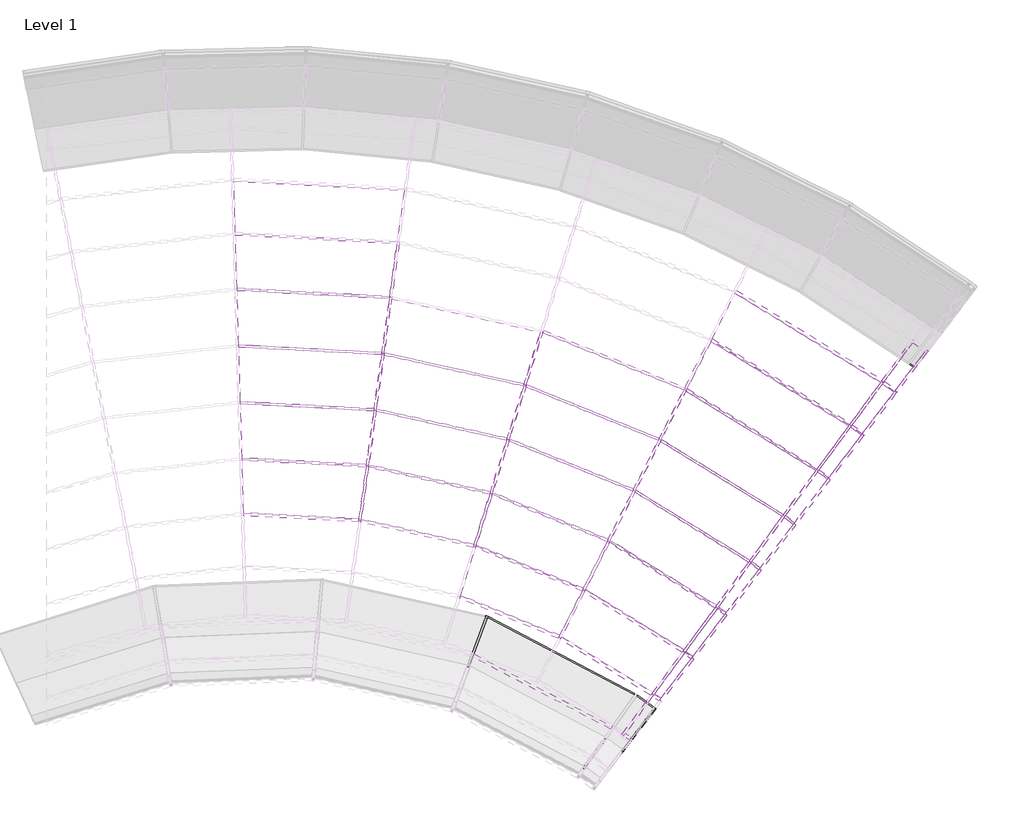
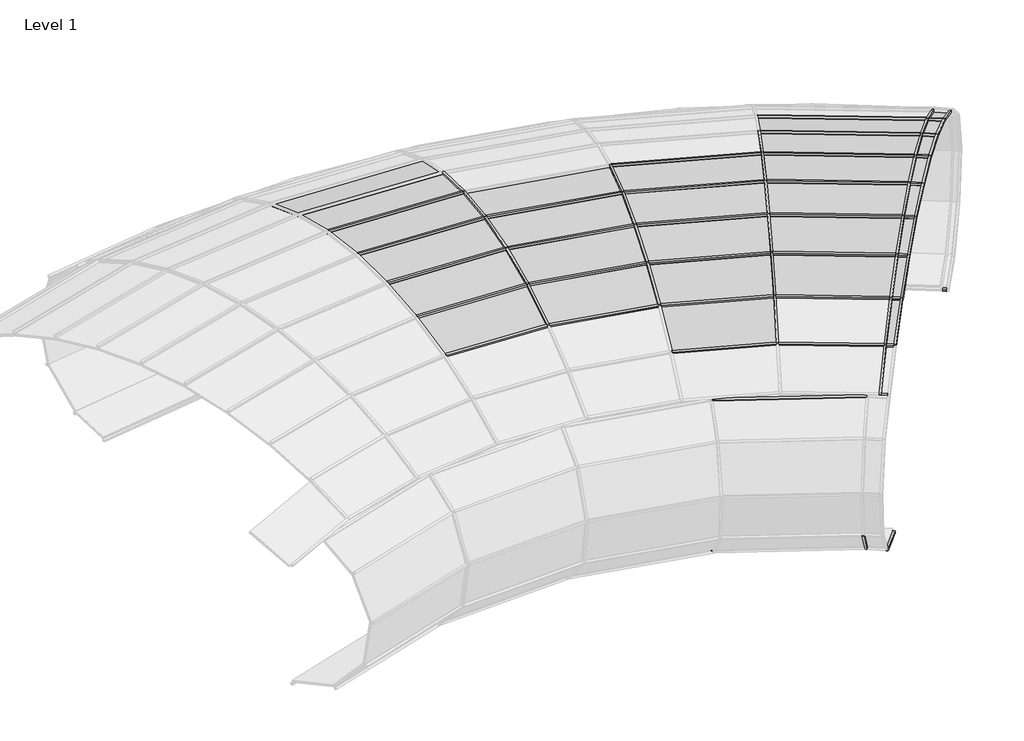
# One storey, part 11 of 23: 71 members, 29 plates.
"""IFC4 building model written with IfcOpenShell, lengths in millimetres."""

from ifc_helpers import new_model, si_unit, origin, place, context, project, spatial, transform, mapped, element, save
from components import member_bff08ed3, member_9d0ecc57, member_3a0dd7d7, member_3a6df916, member_eca8a4a2, member_088ab3f2, member_d0141056, member_eb56ffe8, member_dc232313, member_20936006, member_c628317b, member_691cbd0a, member_6de91377, member_1afcac62, member_1c681369, member_9272082a, member_20199af6, member_5b501c0e, member_86ced42f, member_955aa5bb, member_c28afb9a, member_d6b8231b, member_98341453, member_8c9da58c, member_173a6c74, member_3142c306, member_0cd36c09, member_d0a40a1c, member_e4cc2466, member_9a5219bf, member_20c667eb, member_7149052c, system_panel_glazed_11031df9, system_panel_glazed_55877d03, system_panel_glazed_6b8754b1, system_panel_glazed_fa29fb8c, system_panel_glazed_51026fb6, system_panel_glazed_eab3d7f1, system_panel_glazed_e1e187d2, system_panel_glazed_d7dbf363, system_panel_glazed_71638be0, system_panel_glazed_d8ad03ad, system_panel_glazed_05378adf, system_panel_glazed_bcda8126, system_panel_glazed_d39a2736, system_panel_glazed_5c131dfc, system_panel_glazed_db05a576

model = new_model("IFC4")

# Units and contexts
model_context = context("Model", 3, world=origin())
ifc_project = project(units=[si_unit("LENGTHUNIT", "METRE", prefix="MILLI")], contexts=[model_context])

# Site, building, storey
site = spatial("IfcSite", under=ifc_project)
building = spatial("IfcBuilding", under=site)
storey = spatial("IfcBuildingStorey", under=building, Name="Level 1", Elevation=0.0)

# Members
placement = place(None, origin())
member_shape = member_bff08ed3(model_context)
element("IfcMember", 1, ObjectType="Rectangular Mullion : 1\" Square", at=placement, inside=storey, context=model_context, shape_type="MappedRepresentation", body=[
    mapped(member_shape, transform((2301.5056599, -6690.896124, 0.0), x_axis=(0.445109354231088, 0.8497435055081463, -0.28251307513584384), y_axis=(-0.1310893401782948, -0.25025831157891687, -0.9592634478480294), z_axis=(-0.8858291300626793, 0.46401158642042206, 0.0))),
])
member_2_shape = member_9d0ecc57(model_context)
element("IfcMember", 2, ObjectType="Rectangular Mullion : 1\" Square", at=placement, inside=storey, context=model_context, shape_type="MappedRepresentation", body=[
    mapped(member_2_shape, transform((3896.1567783, -7528.3327614, 0.0), x_axis=(0.5669356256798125, 0.7745913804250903, -0.28034298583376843), y_axis=(-0.16557604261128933, -0.2262228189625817, -0.9598998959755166), z_axis=(-0.8069501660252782, 0.5906195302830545, 0.0))),
])
member_3_shape = member_3a0dd7d7(model_context)
element("IfcMember", 3, ObjectType="Rectangular Mullion : 1\" Square", at=placement, inside=storey, context=model_context, shape_type="MappedRepresentation", body=[
    mapped(member_3_shape, transform((3626.4458114, -7867.7450391, 2085.6089632), x_axis=(0.3715065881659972, 0.7092309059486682, 0.5991447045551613), y_axis=(-0.27801008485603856, -0.5307398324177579, 0.8006407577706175), z_axis=(0.8858291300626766, -0.4640115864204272, 0.0))),
])
member_4_shape = member_3a6df916(model_context)
element("IfcMember", 4, ObjectType="Rectangular Mullion : 1\" Square", at=placement, inside=storey, context=model_context, shape_type="MappedRepresentation", body=[
    mapped(member_4_shape, transform((2325.1422191, -5370.4577997, 2763.3769688), x_axis=(0.21296612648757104, 0.9562195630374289, 0.20072263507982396), y_axis=(-0.04363518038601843, -0.1959222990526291, 0.9796481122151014), z_axis=(0.9760847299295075, -0.21739043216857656, 0.0))),
])
element("IfcMember", 5, ObjectType="Rectangular Mullion : 1\" Square", at=placement, inside=storey, context=model_context, shape_type="MappedRepresentation", body=[
    mapped(member_4_shape, transform((3580.451597, -5876.7686495, 2763.3769688), x_axis=(0.36784942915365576, 0.907963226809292, 0.20072263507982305), y_axis=(-0.07536962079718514, -0.18603493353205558, 0.9796481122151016), z_axis=(0.9268258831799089, -0.37549138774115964, 0.0))),
])
element("IfcMember", 6, ObjectType="Rectangular Mullion : 1\" Square", at=placement, inside=storey, context=model_context, shape_type="MappedRepresentation", body=[
    mapped(member_4_shape, transform((4734.9935766, -6583.2989946, 2763.3769688), x_axis=(0.5126454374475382, 0.8348084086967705, 0.20072263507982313), y_axis=(-0.10503724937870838, -0.17104605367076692, 0.9796481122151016), z_axis=(0.8521512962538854, -0.5232954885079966, 0.0))),
])
element("IfcMember", 7, ObjectType="Rectangular Mullion : 1\" Square", at=placement, inside=storey, context=model_context, shape_type="MappedRepresentation", body=[
    mapped(member_4_shape, transform((1003.4889711, -5078.2506764, 2763.3769688), x_axis=(0.052242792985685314, 0.9782541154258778, 0.200722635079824), y_axis=(-0.01070416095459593, -0.20043701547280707, 0.9796481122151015), z_axis=(0.9985770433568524, -0.05332812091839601, 0.0))),
])
member_5_shape = member_eca8a4a2(model_context)
element("IfcMember", 8, ObjectType="Rectangular Mullion : 1\" Square", at=placement, inside=storey, context=model_context, shape_type="MappedRepresentation", body=[
    mapped(member_5_shape, transform((4836.4355375, -6657.7087757, 2763.3769688), x_axis=(0.5866174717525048, 0.7844743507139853, 0.2011962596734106), y_axis=(-0.12048912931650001, -0.16112822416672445, 0.9795509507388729), z_axis=(0.800850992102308, -0.5988636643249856, 0.0))),
])
member_6_shape = member_088ab3f2(model_context)
element("IfcMember", 9, ObjectType="Rectangular Mullion : 1\" Square", at=placement, inside=storey, context=model_context, shape_type="MappedRepresentation", body=[
    mapped(member_6_shape, transform((1085.4446195, -4480.4538718, 2850.17796), x_axis=(0.05314395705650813, 0.995128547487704, 0.08303549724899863), y_axis=(-0.004428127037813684, -0.0829173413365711, 0.996546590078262), z_axis=(0.9985770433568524, -0.05332812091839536, 0.0))),
])
element("IfcMember", 10, ObjectType="Rectangular Mullion : 1\" Square", at=placement, inside=storey, context=model_context, shape_type="MappedRepresentation", body=[
    mapped(member_6_shape, transform((2504.6275681, -4794.3824943, 2850.17796), x_axis=(0.2166396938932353, 0.9727139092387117, 0.08303549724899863), y_axis=(-0.018051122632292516, -0.08104968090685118, 0.996546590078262), z_axis=(0.9760847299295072, -0.21739043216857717, 0.0))),
])
element("IfcMember", 11, ObjectType="Rectangular Mullion : 1\" Square", at=placement, inside=storey, context=model_context, shape_type="MappedRepresentation", body=[
    mapped(member_6_shape, transform((3852.5447372, -5338.2121799, 2850.17796), x_axis=(0.3741946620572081, 0.9236251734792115, 0.08303549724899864), y_axis=(-0.031179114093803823, -0.07695944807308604, 0.9965465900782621), z_axis=(0.9268258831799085, -0.3754913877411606, 0.0))),
])
element("IfcMember", 12, ObjectType="Rectangular Mullion : 1\" Square", at=placement, inside=storey, context=model_context, shape_type="MappedRepresentation", body=[
    mapped(member_6_shape, transform((5092.2330757, -6097.0298425, 2850.17796), x_axis=(0.5214883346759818, 0.8492084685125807, 0.08303549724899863), y_axis=(-0.043452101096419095, -0.07075880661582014, 0.996546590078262), z_axis=(0.8521512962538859, -0.5232954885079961, 0.0))),
])
member_7_shape = member_d0141056(model_context)
element("IfcMember", 13, ObjectType="Rectangular Mullion : 1\" Square", at=placement, inside=storey, context=model_context, shape_type="MappedRepresentation", body=[
    mapped(member_7_shape, transform((923.5200016, -5661.5563471, 2605.3528615), x_axis=(0.050602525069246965, 0.9475398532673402, 0.31560673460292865), y_axis=(-0.016830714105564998, -0.3151576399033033, 0.9488900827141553), z_axis=(0.9985770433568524, -0.0533281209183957, 0.0))),
])
element("IfcMember", 14, ObjectType="Rectangular Mullion : 1\" Square", at=placement, inside=storey, context=model_context, shape_type="MappedRepresentation", body=[
    mapped(member_7_shape, transform((2150.007757, -5932.5685198, 2605.3528615), x_axis=(0.20627962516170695, 0.9261971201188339, 0.3156067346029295), y_axis=(-0.06860988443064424, -0.30805891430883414, 0.9488900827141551), z_axis=(0.9760847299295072, -0.21739043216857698, 0.0))),
])
element("IfcMember", 15, ObjectType="Rectangular Mullion : 1\" Square", at=placement, inside=storey, context=model_context, shape_type="MappedRepresentation", body=[
    mapped(member_7_shape, transform((3314.9542401, -6402.2700244, 2605.3528615), x_axis=(0.35630005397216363, 0.8794558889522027, 0.3156067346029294), y_axis=(-0.11850761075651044, -0.29251249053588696, 0.9488900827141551), z_axis=(0.926825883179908, -0.3754913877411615, 0.0))),
])
element("IfcMember", 16, ObjectType="Rectangular Mullion : 1\" Square", at=placement, inside=storey, context=model_context, shape_type="MappedRepresentation", body=[
    mapped(member_7_shape, transform((4386.4138853, -7057.7805436, 2605.3528615), x_axis=(0.496549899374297, 0.8085979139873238, 0.3156067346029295), y_axis=(-0.1651555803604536, -0.2689446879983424, 0.9488900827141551), z_axis=(0.8521512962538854, -0.5232954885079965, 0.0))),
])
member_8_shape = member_eb56ffe8(model_context)
element("IfcMember", 17, ObjectType="Rectangular Mullion : 1\" Square", at=placement, inside=storey, context=model_context, shape_type="MappedRepresentation", body=[
    mapped(member_8_shape, transform((4137.2242306, -7576.4158177, 2378.3537392), x_axis=(0.5415001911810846, 0.7241397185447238, 0.42708220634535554), y_axis=(-0.2557640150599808, -0.3420292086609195, 0.9042128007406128), z_axis=(0.8008509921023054, -0.5988636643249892, 0.0))),
])
member_9_shape = member_dc232313(model_context)
element("IfcMember", 18, ObjectType="Rectangular Mullion : 1\" Square", at=placement, inside=storey, context=model_context, shape_type="MappedRepresentation", body=[
    mapped(member_9_shape, transform((4051.4530067, -7513.724365, 2378.3537392), x_axis=(0.47341858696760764, 0.7709301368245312, 0.4260769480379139), y_axis=(-0.22296414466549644, -0.3630820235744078, 0.9046869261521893), z_axis=(0.8521512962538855, -0.5232954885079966, 0.0))),
])
element("IfcMember", 19, ObjectType="Rectangular Mullion : 1\" Square", at=placement, inside=storey, context=model_context, shape_type="MappedRepresentation", body=[
    mapped(member_9_shape, transform((3059.8297158, -6907.2403557, 2378.3537392), x_axis=(0.33970214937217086, 0.8384872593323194, 0.42607694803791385), y_axis=(-0.15998822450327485, -0.39489914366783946, 0.9046869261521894), z_axis=(0.9268258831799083, -0.37549138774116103, 0.0))),
])
member_10_shape = member_20936006(model_context)
element("IfcMember", 20, ObjectType="Rectangular Mullion : 1\" Square", at=placement, inside=storey, context=model_context, shape_type="MappedRepresentation", body=[
    mapped(member_10_shape, transform((5201.8650497, -6177.5639856, 2850.17796), x_axis=(0.5967902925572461, 0.7980783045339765, 0.083140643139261), y_axis=(-0.04978991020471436, -0.06658326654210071, 0.9965378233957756), z_axis=(0.800850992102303, -0.5988636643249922, 0.0))),
])
member_11_shape = member_c628317b(model_context)
element("IfcMember", 21, ObjectType="Rectangular Mullion : 1\" Square", at=placement, inside=storey, context=model_context, shape_type="MappedRepresentation", body=[
    mapped(member_11_shape, transform((1168.2210198, -3876.6703796, 2864.5209769), x_axis=(0.05329391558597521, 0.9979365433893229, -0.03581080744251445), y_axis=(0.0019097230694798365, 0.03575985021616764, 0.999358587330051), z_axis=(0.9985770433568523, -0.053328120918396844, 0.0))),
])
element("IfcMember", 22, ObjectType="Rectangular Mullion : 1\" Square", at=placement, inside=storey, context=model_context, shape_type="MappedRepresentation", body=[
    mapped(member_11_shape, transform((2685.9103885, -4212.5380333, 2864.5209769), x_axis=(0.21725099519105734, 0.975458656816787, -0.03581080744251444), y_axis=(0.007784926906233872, 0.03495438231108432, 0.999358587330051), z_axis=(0.9760847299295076, -0.21739043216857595, 0.0))),
])
element("IfcMember", 23, ObjectType="Rectangular Mullion : 1\" Square", at=placement, inside=storey, context=model_context, shape_type="MappedRepresentation", body=[
    mapped(member_11_shape, transform((4127.3627775, -4794.2622901, 2864.5209769), x_axis=(0.3752505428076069, 0.9262314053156, -0.035810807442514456), y_axis=(0.013446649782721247, 0.03319038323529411, 0.999358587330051), z_axis=(0.9268258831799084, -0.37549138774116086, 0.0))),
])
element("IfcMember", 24, ObjectType="Rectangular Mullion : 1\" Square", at=placement, inside=storey, context=model_context, shape_type="MappedRepresentation", body=[
    mapped(member_11_shape, transform((5453.0501805, -5605.8909062, 2864.5209769), x_axis=(0.5229598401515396, 0.8516047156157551, -0.03581080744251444), y_axis=(0.01873963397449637, 0.03051622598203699, 0.999358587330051), z_axis=(0.8521512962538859, -0.5232954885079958, 0.0))),
])
member_12_shape = member_691cbd0a(model_context)
element("IfcMember", 25, ObjectType="Rectangular Mullion : 1\" Square", at=placement, inside=storey, context=model_context, shape_type="MappedRepresentation", body=[
    mapped(member_12_shape, transform((5570.9541872, -5692.6107441, 2864.5209769), x_axis=(0.5984733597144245, 0.8003290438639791, -0.03609791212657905), y_axis=(0.021617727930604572, 0.028909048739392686, 0.9993482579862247), z_axis=(0.8008509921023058, -0.5988636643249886, 0.0))),
])
member_13_shape = member_6de91377(model_context)
element("IfcMember", 26, ObjectType="Rectangular Mullion : 1\" Square", at=placement, inside=storey, context=model_context, shape_type="MappedRepresentation", body=[
    mapped(member_13_shape, transform((1250.6405687, -3275.4898148, 2806.2019711), x_axis=(0.05269064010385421, 0.9866401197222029, -0.1541589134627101), y_axis=(0.008221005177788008, 0.1539395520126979, 0.9880460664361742), z_axis=(0.9985770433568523, -0.053328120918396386, 0.0))),
])
element("IfcMember", 27, ObjectType="Rectangular Mullion : 1\" Square", at=placement, inside=storey, context=model_context, shape_type="MappedRepresentation", body=[
    mapped(member_13_shape, transform((4400.9960697, -4252.6573834, 2806.2019711), x_axis=(0.3710027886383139, 0.9157466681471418, -0.15415891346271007), y_axis=(0.05788534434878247, 0.14287847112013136, 0.9880460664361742), z_axis=(0.9268258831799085, -0.3754913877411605, 0.0))),
])
element("IfcMember", 28, ObjectType="Rectangular Mullion : 1\" Square", at=placement, inside=storey, context=model_context, shape_type="MappedRepresentation", body=[
    mapped(member_13_shape, transform((5812.3117927, -5116.8692835, 2806.2019711), x_axis=(0.5170400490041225, 0.8419647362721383, -0.1541589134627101), y_axis=(0.08067066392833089, 0.13136671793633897, 0.9880460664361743), z_axis=(0.8521512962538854, -0.5232954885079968, 0.0))),
])
member_14_shape = member_1afcac62(model_context)
element("IfcMember", 29, ObjectType="Rectangular Mullion : 1\" Square", at=placement, inside=storey, context=model_context, shape_type="MappedRepresentation", body=[
    mapped(member_14_shape, transform((5938.4521712, -5209.7481494, 2806.2019711), x_axis=(0.5916426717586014, 0.7911944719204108, -0.15482330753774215), y_axis=(0.09271805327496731, 0.12399039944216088, 0.9879421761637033), z_axis=(0.8008509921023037, -0.5988636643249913, 0.0))),
])
member_15_shape = member_1c681369(model_context)
element("IfcMember", 30, ObjectType="Rectangular Mullion : 1\" Square", at=placement, inside=storey, context=model_context, shape_type="MappedRepresentation", body=[
    mapped(member_15_shape, transform((6164.9069432, -4636.9219506, 2676.0506073), x_axis=(0.5038079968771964, 0.8204172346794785, -0.27035728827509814), y_axis=(0.14147674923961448, 0.2303853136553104, 0.9627600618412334), z_axis=(0.852151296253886, -0.5232954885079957, 0.0))),
])
member_16_shape = member_9272082a(model_context)
element("IfcMember", 31, ObjectType="Rectangular Mullion : 1\" Square", at=placement, inside=storey, context=model_context, shape_type="MappedRepresentation", body=[
    mapped(member_16_shape, transform((6299.1308592, -4735.8455576, 2676.0506073), x_axis=(0.5763952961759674, 0.7708043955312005, -0.2713467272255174), y_axis=(0.16249969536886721, 0.21730829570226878, 0.962481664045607), z_axis=(0.8008509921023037, -0.5988636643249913, 0.0))),
])
member_17_shape = member_20199af6(model_context)
element("IfcMember", 32, ObjectType="Rectangular Mullion : 1\" Square", at=placement, inside=storey, context=model_context, shape_type="MappedRepresentation", body=[
    mapped(member_17_shape, transform((6505.8195017, -4172.87679, 2475.91846), x_axis=(0.48344113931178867, 0.7872511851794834, -0.3827796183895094), y_axis=(0.20030684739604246, 0.3261861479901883, 0.9238396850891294), z_axis=(0.8521512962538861, -0.5232954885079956, 0.0))),
])
member_18_shape = member_5b501c0e(model_context)
element("IfcMember", 33, ObjectType="Rectangular Mullion : 1\" Square", at=placement, inside=storey, context=model_context, shape_type="MappedRepresentation", body=[
    mapped(member_18_shape, transform((6647.8591221, -4277.6448567, 2475.91846), x_axis=(0.5529479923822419, 0.7394486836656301, -0.384010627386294), y_axis=(0.2299700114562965, 0.3075352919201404, 0.9233286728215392), z_axis=(0.8008509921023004, -0.5988636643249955, 0.0))),
])
member_19_shape = member_86ced42f(model_context)
element("IfcMember", 34, ObjectType="Rectangular Mullion : 1\" Square", at=placement, inside=storey, context=model_context, shape_type="MappedRepresentation", body=[
    mapped(member_19_shape, transform((4479.8643664, -7126.2144229, 2605.3528615), x_axis=(0.5680996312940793, 0.7597107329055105, 0.3163896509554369), y_axis=(-0.1894742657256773, -0.25338096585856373, 0.9486293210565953), z_axis=(0.8008509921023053, -0.5988636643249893, 0.0))),
])
member_20_shape = member_955aa5bb(model_context)
element("IfcMember", 35, ObjectType="Rectangular Mullion : 1\" Square", at=placement, inside=storey, context=model_context, shape_type="MappedRepresentation", body=[
    mapped(member_20_shape, transform((3755.8693293, -7958.8954791, 2085.6089632), x_axis=(-0.5252863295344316, -0.7024571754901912, -0.4802376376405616), y_axis=(-0.2875968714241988, -0.3845987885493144, 0.8771384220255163), z_axis=(-0.8008509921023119, 0.5988636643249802, 0.0))),
])
member_21_shape = member_c28afb9a(model_context)
element("IfcMember", 36, ObjectType="Rectangular Mullion : 1\" Square", at=placement, inside=storey, context=model_context, shape_type="MappedRepresentation", body=[
    mapped(member_21_shape, transform((6843.6513643, -4020.3884594, 0.0), x_axis=(-0.5868817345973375, -0.7767931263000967, -0.22839060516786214), y_axis=(0.13767713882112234, 0.18222863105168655, -0.9735695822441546), z_axis=(0.7978814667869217, -0.6028143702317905, 0.0))),
])
member_22_shape = member_d6b8231b(model_context)
element("IfcMember", 37, ObjectType="Rectangular Mullion : 1\" Square", at=placement, inside=storey, context=model_context, shape_type="MappedRepresentation", body=[
    mapped(member_22_shape, transform((2290.2556299, -6685.0031769, 0.0), x_axis=(0.9387056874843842, -0.3447196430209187, 0.0), y_axis=(-0.09662411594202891, -0.2631170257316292, -0.9599131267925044), z_axis=(0.330900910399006, 0.9010759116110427, -0.2802976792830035))),
])
member_23_shape = member_98341453(model_context)
element("IfcMember", 38, ObjectType="Rectangular Mullion : 1\" Square", at=placement, inside=storey, context=model_context, shape_type="MappedRepresentation", body=[
    mapped(member_23_shape, transform((4094.9824837, -7673.8564252, 0.0), x_axis=(0.7966275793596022, -0.6044494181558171, 0.005039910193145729), y_axis=(-0.16557604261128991, -0.22622281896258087, -0.9598998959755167), z_axis=(0.581351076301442, 0.7638482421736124, -0.28029767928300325))),
])
member_24_shape = member_8c9da58c(model_context)
element("IfcMember", 39, ObjectType="Rectangular Mullion : 1\" Square", at=placement, inside=storey, context=model_context, shape_type="MappedRepresentation", body=[
    mapped(member_24_shape, transform((3549.2039194, -7999.4191933, 170.8694653), x_axis=(0.817870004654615, -0.5754030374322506, 0.0), y_axis=(-0.4331661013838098, -0.615696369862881, -0.6582439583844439), z_axis=(0.3787555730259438, 0.5383579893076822, -0.7528046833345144))),
])
member_25_shape = member_173a6c74(model_context)
element("IfcMember", 40, ObjectType="Rectangular Mullion : 1\" Square", at=placement, inside=storey, context=model_context, shape_type="MappedRepresentation", body=[
    mapped(member_25_shape, transform((5958.7937864, -5224.9592865, 2806.2019711), x_axis=(0.7959799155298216, -0.6053204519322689, 0.0017676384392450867), y_axis=(0.12786350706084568, 0.17098986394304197, 0.9769408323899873), z_axis=(-0.591664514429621, -0.7773992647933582, 0.21350289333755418))),
])
element("IfcMember", 41, ObjectType="Rectangular Mullion : 1\" Square", at=placement, inside=storey, context=model_context, shape_type="MappedRepresentation", body=[
    mapped(member_25_shape, transform((6319.4724744, -4751.0566947, 2676.0506073), x_axis=(0.7962973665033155, -0.6048996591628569, 0.002628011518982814), y_axis=(0.19661369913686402, 0.2629284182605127, 0.9445695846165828), z_axis=(-0.5720607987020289, -0.751641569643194, 0.328300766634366))),
])
member_26_shape = member_3142c306(model_context)
element("IfcMember", 42, ObjectType="Rectangular Mullion : 1\" Square", at=placement, inside=storey, context=model_context, shape_type="MappedRepresentation", body=[
    mapped(member_26_shape, transform((6668.2007373, -4292.8559938, 2475.91846), x_axis=(0.7967283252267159, -0.6043284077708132, 0.0033393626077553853), y_axis=(0.262566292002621, 0.3511257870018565, 0.89876004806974), z_axis=(-0.5443187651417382, -0.7151907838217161, 0.43842812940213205))),
])
member_27_shape = member_0cd36c09(model_context)
element("IfcMember", 43, ObjectType="Rectangular Mullion : 1\" Square", at=placement, inside=storey, context=model_context, shape_type="MappedRepresentation", body=[
    mapped(member_27_shape, transform((1263.3224971, -3276.1670819, 2806.2019711), x_axis=(0.9907327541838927, -0.13582565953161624, 0.0), y_axis=(0.02899917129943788, 0.21152430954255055, 0.9769424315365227), z_axis=(-0.13269385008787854, -0.9678888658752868, 0.2135028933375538))),
])
element("IfcMember", 44, ObjectType="Rectangular Mullion : 1\" Square", at=placement, inside=storey, context=model_context, shape_type="MappedRepresentation", body=[
    mapped(member_27_shape, transform((4412.7667584, -4257.426124, 2806.2019711), x_axis=(0.8925533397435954, -0.4509418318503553, 0.0), y_axis=(0.09627738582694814, 0.19056272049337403, 0.9769424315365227), z_axis=(-0.4405442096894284, -0.8719732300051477, 0.21350289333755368))),
])
element("IfcMember", 45, ObjectType="Rectangular Mullion : 1\" Square", at=placement, inside=storey, context=model_context, shape_type="MappedRepresentation", body=[
    mapped(member_27_shape, transform((5823.1341142, -5123.5151362, 2806.2019711), x_axis=(0.8058972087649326, -0.5920554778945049, 0.0), y_axis=(0.12640555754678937, 0.17206138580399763, 0.9769424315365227), z_axis=(-0.5784041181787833, -0.7873151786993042, 0.21350289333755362))),
])
element("IfcMember", 46, ObjectType="Rectangular Mullion : 1\" Square", at=placement, inside=storey, context=model_context, shape_type="MappedRepresentation", body=[
    mapped(member_27_shape, transform((6175.7292646, -4643.5678033, 2676.0506073), x_axis=(0.8058972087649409, -0.5920554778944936, 0.0), y_axis=(0.19437226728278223, 0.26457667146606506, 0.9445732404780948), z_axis=(-0.559239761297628, -0.7612289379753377, 0.32830076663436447))),
])
member_28_shape = member_d0a40a1c(model_context)
element("IfcMember", 47, ObjectType="Rectangular Mullion : 1\" Square", at=placement, inside=storey, context=model_context, shape_type="MappedRepresentation", body=[
    mapped(member_28_shape, transform((6516.6418231, -4179.5226427, 2475.91846), x_axis=(0.8058972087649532, -0.5920554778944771, 0.0), y_axis=(0.2595737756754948, 0.35332800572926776, 0.8987662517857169), z_axis=(-0.532119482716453, -0.7243132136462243, 0.43842812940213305))),
])
element("IfcMember", 48, ObjectType="Rectangular Mullion : 1\" Square", at=placement, inside=storey, context=model_context, shape_type="MappedRepresentation", body=[
    mapped(member_27_shape, transform((936.20193, -5662.2336142, 2605.3528615), x_axis=(0.9907327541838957, -0.13582565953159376, 0.0), y_axis=(-0.035209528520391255, -0.2568235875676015, 0.9658167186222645), z_axis=(-0.13118269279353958, -0.9568662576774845, -0.25922589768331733))),
])
element("IfcMember", 49, ObjectType="Rectangular Mullion : 1\" Square", at=placement, inside=storey, context=model_context, shape_type="MappedRepresentation", body=[
    mapped(member_27_shape, transform((1016.1708995, -5078.9279436, 2763.3769688), x_axis=(0.9907327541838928, -0.1358256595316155, 0.0), y_axis=(-0.019340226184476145, -0.1410705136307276, 0.9898106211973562), z_axis=(-0.13444168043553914, -0.980637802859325, -0.1423900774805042))),
])
element("IfcMember", 50, ObjectType="Rectangular Mullion : 1\" Square", at=placement, inside=storey, context=model_context, shape_type="MappedRepresentation", body=[
    mapped(member_27_shape, transform((2162.404033, -5935.3293783, 2605.3528615), x_axis=(0.9547335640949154, -0.2974623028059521, 0.0), y_axis=(-0.07710993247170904, -0.24749166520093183, 0.9658167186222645), z_axis=(-0.28729406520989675, -0.9220976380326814, -0.2592258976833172))),
])
element("IfcMember", 51, ObjectType="Rectangular Mullion : 1\" Square", at=placement, inside=storey, context=model_context, shape_type="MappedRepresentation", body=[
    mapped(member_27_shape, transform((2337.5384952, -5373.2186582, 2763.3769688), x_axis=(0.954733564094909, -0.2974623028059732, 0.0), y_axis=(-0.042355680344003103, -0.1359445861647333, 0.9898106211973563), z_axis=(-0.29443134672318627, -0.9450054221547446, -0.1423900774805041))),
])
element("IfcMember", 52, ObjectType="Rectangular Mullion : 1\" Square", at=placement, inside=storey, context=model_context, shape_type="MappedRepresentation", body=[
    mapped(member_27_shape, transform((3071.6004045, -6912.0090964, 2378.3537392), x_axis=(0.8925533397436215, -0.45094183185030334, 0.0), y_axis=(-0.16791896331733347, -0.33236355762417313, 0.9280828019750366), z_axis=(-0.41851135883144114, -0.8283634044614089, -0.3723738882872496))),
])
element("IfcMember", 53, ObjectType="Rectangular Mullion : 1\" Square", at=placement, inside=storey, context=model_context, shape_type="MappedRepresentation", body=[
    mapped(member_27_shape, transform((3326.7249288, -6407.038765, 2605.3528615), x_axis=(0.8925533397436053, -0.4509418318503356, 0.0), y_axis=(-0.11689580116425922, -0.23137294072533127, 0.9658167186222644), z_axis=(-0.43552716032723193, -0.862042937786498, -0.25922589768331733))),
])
element("IfcMember", 54, ObjectType="Rectangular Mullion : 1\" Square", at=placement, inside=storey, context=model_context, shape_type="MappedRepresentation", body=[
    mapped(member_27_shape, transform((3592.2222858, -5881.5373901, 2763.3769688), x_axis=(0.8925533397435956, -0.45094183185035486, 0.0), y_axis=(-0.06420964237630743, -0.12709073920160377, 0.9898106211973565), z_axis=(-0.44634701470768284, -0.8834587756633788, -0.14239007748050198))),
])
element("IfcMember", 55, ObjectType="Rectangular Mullion : 1\" Square", at=placement, inside=storey, context=model_context, shape_type="MappedRepresentation", body=[
    mapped(member_27_shape, transform((4062.2753281, -7520.3702177, 2378.3537392), x_axis=(0.8058972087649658, -0.5920554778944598, 0.0), y_axis=(-0.22046600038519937, -0.3000950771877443, 0.9280828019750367), z_axis=(-0.5494765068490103, -0.7479393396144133, -0.37237388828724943))),
])
element("IfcMember", 56, ObjectType="Rectangular Mullion : 1\" Square", at=placement, inside=storey, context=model_context, shape_type="MappedRepresentation", body=[
    mapped(member_27_shape, transform((4397.2362067, -7064.4263963, 2605.3528615), x_axis=(0.8058972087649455, -0.5920554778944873, 0.0), y_axis=(-0.15347611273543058, -0.20890942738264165, 0.9658167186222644), z_axis=(-0.5718170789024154, -0.7783489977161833, -0.25922589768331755))),
])
element("IfcMember", 57, ObjectType="Rectangular Mullion : 1\" Square", at=placement, inside=storey, context=model_context, shape_type="MappedRepresentation", body=[
    mapped(member_27_shape, transform((4745.815898, -6589.9448473, 2763.3769688), x_axis=(0.8058972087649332, -0.5920554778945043, 0.0), y_axis=(-0.08430282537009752, -0.11475176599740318, 0.9898106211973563), z_axis=(-0.5860228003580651, -0.7976856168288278, -0.142390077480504))),
])
element("IfcMember", 58, ObjectType="Rectangular Mullion : 1\" Square", at=placement, inside=storey, context=model_context, shape_type="MappedRepresentation", body=[
    mapped(member_27_shape, transform((1098.1265479, -4481.1311389, 2850.17796), x_axis=(0.9907327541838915, -0.13582565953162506, 0.0), y_axis=(-0.003195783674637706, -0.023310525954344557, 0.9997231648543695), z_axis=(-0.13578805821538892, -0.9904584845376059, -0.023528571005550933))),
])
element("IfcMember", 59, ObjectType="Rectangular Mullion : 1\" Square", at=placement, inside=storey, context=model_context, shape_type="MappedRepresentation", body=[
    mapped(member_27_shape, transform((2517.0238442, -4797.1433528, 2850.17796), x_axis=(0.954733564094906, -0.2974623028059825, 0.0), y_axis=(-0.006998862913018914, -0.022463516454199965, 0.9997231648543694), z_axis=(-0.29737995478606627, -0.9544692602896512, -0.02352857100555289))),
])
element("IfcMember", 60, ObjectType="Rectangular Mullion : 1\" Square", at=placement, inside=storey, context=model_context, shape_type="MappedRepresentation", body=[
    mapped(member_27_shape, transform((3864.3154259, -5342.9809205, 2850.17796), x_axis=(0.8925533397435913, -0.45094183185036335, 0.0), y_axis=(-0.01061001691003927, -0.021000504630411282, 0.9997231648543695), z_axis=(-0.4508169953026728, -0.8923062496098, -0.023528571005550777))),
])
element("IfcMember", 61, ObjectType="Rectangular Mullion : 1\" Square", at=placement, inside=storey, context=model_context, shape_type="MappedRepresentation", body=[
    mapped(member_27_shape, transform((5103.0553971, -6103.6756952, 2850.17796), x_axis=(0.8058972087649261, -0.5920554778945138, 0.0), y_axis=(-0.013930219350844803, -0.018961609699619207, 0.9997231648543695), z_axis=(-0.59189157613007, -0.805674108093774, -0.023528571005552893))),
])
element("IfcMember", 62, ObjectType="Rectangular Mullion : 1\" Square", at=placement, inside=storey, context=model_context, shape_type="MappedRepresentation", body=[
    mapped(member_27_shape, transform((1180.9029482, -3877.3476468, 2864.5209769), x_axis=(0.9907327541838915, -0.13582565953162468, 0.0), y_axis=(0.012994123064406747, 0.09478108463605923, 0.9954133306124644), z_axis=(-0.13520267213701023, -0.9861885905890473, 0.09566766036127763))),
])
element("IfcMember", 63, ObjectType="Rectangular Mullion : 1\" Square", at=placement, inside=storey, context=model_context, shape_type="MappedRepresentation", body=[
    mapped(member_27_shape, transform((2698.3066646, -4215.2988917, 2864.5209769), x_axis=(0.954733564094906, -0.29746230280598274, 0.0), y_axis=(0.028457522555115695, 0.09133712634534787, 0.9954133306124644), z_axis=(-0.29609794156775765, -0.9503545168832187, 0.0956676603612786))),
])
element("IfcMember", 64, ObjectType="Rectangular Mullion : 1\" Square", at=placement, inside=storey, context=model_context, shape_type="MappedRepresentation", body=[
    mapped(member_27_shape, transform((4139.1334663, -4799.0310307, 2864.5209769), x_axis=(0.8925533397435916, -0.4509418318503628, 0.0), y_axis=(0.043140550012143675, 0.08538848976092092, 0.9954133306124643), z_axis=(-0.44887351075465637, -0.8884594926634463, 0.09566766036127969))),
])
element("IfcMember", 65, ObjectType="Rectangular Mullion : 1\" Square", at=placement, inside=storey, context=model_context, shape_type="MappedRepresentation", body=[
    mapped(member_27_shape, transform((5463.8725019, -5612.5367589, 2864.5209769), x_axis=(0.8058972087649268, -0.592055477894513, 0.0), y_axis=(0.05664056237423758, 0.0770983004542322, 0.9954133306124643), z_axis=(-0.5893399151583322, -0.8022008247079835, 0.0956676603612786))),
])
member_29_shape = member_e4cc2466(model_context)
element("IfcMember", 66, ObjectType="Rectangular Mullion : 1\" Square", at=placement, inside=storey, context=model_context, shape_type="MappedRepresentation", body=[
    mapped(member_29_shape, transform((3745.6985217, -7951.2899105, 2085.6089632), x_axis=(0.8058972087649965, -0.5920554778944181, 0.0), y_axis=(-0.2843194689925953, -0.38701147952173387, 0.8771456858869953), z_axis=(-0.5193189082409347, -0.706889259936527, -0.48022437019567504))),
])
member_30_shape = member_9a5219bf(model_context)
element("IfcMember", 67, ObjectType="Rectangular Mullion : 1\" Square", at=placement, inside=storey, context=model_context, shape_type="MappedRepresentation", body=[
    mapped(member_30_shape, transform((4157.5658458, -7591.6269548, 2378.3537392), x_axis=(0.7964549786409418, -0.6046907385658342, -0.00292876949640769), y_axis=(-0.22300808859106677, -0.29822522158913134, 0.9280781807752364), z_axis=(-0.5620737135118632, -0.7385193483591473, -0.3723738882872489))),
])
element("IfcMember", 68, ObjectType="Rectangular Mullion : 1\" Square", at=placement, inside=storey, context=model_context, shape_type="MappedRepresentation", body=[
    mapped(member_30_shape, transform((4500.2059816, -7141.42556, 2605.3528615), x_axis=(0.7960902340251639, -0.6051742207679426, -0.002121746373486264), y_axis=(-0.15524617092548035, -0.2076082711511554, 0.9658143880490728), z_axis=(-0.5849264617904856, -0.768546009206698, -0.25922589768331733))),
])
element("IfcMember", 69, ObjectType="Rectangular Mullion : 1\" Square", at=placement, inside=storey, context=model_context, shape_type="MappedRepresentation", body=[
    mapped(member_30_shape, transform((4856.7771527, -6672.9199128, 2763.3769688), x_axis=(0.795850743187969, -0.6054916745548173, -0.0011944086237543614), y_axis=(-0.08527524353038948, -0.11403724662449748, 0.9898099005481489), z_axis=(-0.5994578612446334, -0.7876390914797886, -0.14239007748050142))),
])
member_31_shape = member_20c667eb(model_context)
element("IfcMember", 70, ObjectType="Rectangular Mullion : 1\" Square", at=placement, inside=storey, context=model_context, shape_type="MappedRepresentation", body=[
    mapped(member_31_shape, transform((5222.2066649, -6192.7751226, 2850.17796), x_axis=(0.7957500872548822, -0.6056250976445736, -0.00019934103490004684), y_axis=(-0.014090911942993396, -0.01884355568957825, 0.9997231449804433), z_axis=(-0.6054611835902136, -0.7955269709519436, -0.023528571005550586))),
])
member_32_shape = member_7149052c(model_context)
element("IfcMember", 71, ObjectType="Rectangular Mullion : 1\" Square", at=placement, inside=storey, context=model_context, shape_type="MappedRepresentation", body=[
    mapped(member_32_shape, transform((5591.2958024, -5707.8218811, 2864.5209769), x_axis=(0.7957939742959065, -0.6055669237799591, 0.0008070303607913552), y_axis=(0.05729392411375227, 0.07661826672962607, 0.995413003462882), z_axis=(-0.6028510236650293, -0.7920974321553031, 0.09566766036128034))),
])

# Plates
system_panel_glazed_shape = system_panel_glazed_11031df9(model_context)
element("IfcPlate", 72, ObjectType="System Panel : Glazed", at=placement, inside=storey, context=model_context, shape_type="MappedRepresentation", body=[
    mapped(system_panel_glazed_shape, transform((2537.2798598, -6682.824973, 2383.0969125), x_axis=(0.9268258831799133, -0.37549138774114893, 0.0), y_axis=(0.14023785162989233, 0.34614927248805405, -0.9276389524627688), z_axis=(0.34832043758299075, 0.8597597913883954, 0.37347821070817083))),
])
system_panel_glazed_2_shape = system_panel_glazed_55877d03(model_context)
element("IfcPlate", 73, ObjectType="System Panel : Glazed", at=placement, inside=storey, context=model_context, shape_type="MappedRepresentation", body=[
    mapped(system_panel_glazed_2_shape, transform((4111.8935881, -7542.7563797, 2383.0830339), x_axis=(0.8008509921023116, -0.598863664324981, 0.0), y_axis=(0.223008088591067, 0.2982252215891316, -0.9280781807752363), z_axis=(0.5557923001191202, 0.7432523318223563, 0.3723854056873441))),
])
system_panel_glazed_3_shape = system_panel_glazed_6b8754b1(model_context)
element("IfcPlate", 74, ObjectType="System Panel : Glazed", at=placement, inside=storey, context=model_context, shape_type="MappedRepresentation", body=[
    mapped(system_panel_glazed_3_shape, transform((309.6269084, -5616.4914281, 2608.6556077), x_axis=(0.998577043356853, -0.0533281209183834, 0.0), y_axis=(0.013868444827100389, 0.25968870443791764, -0.9655927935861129), z_axis=(0.051493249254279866, 0.9642187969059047, 0.260058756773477))),
])
element("IfcPlate", 75, ObjectType="System Panel : Glazed", at=placement, inside=storey, context=model_context, shape_type="MappedRepresentation", body=[
    mapped(system_panel_glazed_3_shape, transform((1551.9688466, -5786.8117414, 2608.6556077), x_axis=(0.9760847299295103, -0.21739043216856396, 0.0), y_axis=(0.056534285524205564, 0.2538393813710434, -0.965592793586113), z_axis=(0.20991063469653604, 0.9425003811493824, 0.26005875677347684))),
])
element("IfcPlate", 76, ObjectType="System Panel : Glazed", at=placement, inside=storey, context=model_context, shape_type="MappedRepresentation", body=[
    mapped(system_panel_glazed_3_shape, transform((2749.1691425, -6159.8183795, 2608.6556077), x_axis=(0.9268258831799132, -0.3754913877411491, 0.0), y_axis=(0.0976498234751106, 0.24102918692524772, -0.9655927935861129), z_axis=(0.3625717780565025, 0.8949363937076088, 0.2600587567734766))),
])
element("IfcPlate", 77, ObjectType="System Panel : Glazed", at=placement, inside=storey, context=model_context, shape_type="MappedRepresentation", body=[
    mapped(system_panel_glazed_3_shape, transform((3868.3977552, -6725.282625, 2608.6556077), x_axis=(0.8521512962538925, -0.5232954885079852, 0.0), y_axis=(0.13608757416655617, 0.22160940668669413, -0.9655927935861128), z_axis=(0.5052903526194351, 0.8228311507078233, 0.2600587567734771))),
])
system_panel_glazed_4_shape = system_panel_glazed_fa29fb8c(model_context)
element("IfcPlate", 78, ObjectType="System Panel : Glazed", at=placement, inside=storey, context=model_context, shape_type="MappedRepresentation", body=[
    mapped(system_panel_glazed_4_shape, transform((4450.9810875, -7089.2999542, 2608.6451407), x_axis=(0.8008509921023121, -0.5988636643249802, 0.0), y_axis=(0.15524617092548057, 0.20760827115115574, -0.9658143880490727), z_axis=(0.5783911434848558, 0.7734734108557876, 0.2592345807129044))),
])
system_panel_glazed_5_shape = system_panel_glazed_51026fb6(model_context)
element("IfcPlate", 79, ObjectType="System Panel : Glazed", at=placement, inside=storey, context=model_context, shape_type="MappedRepresentation", body=[
    mapped(system_panel_glazed_5_shape, transform((340.9330182, -5030.2798367, 2765.1914265), x_axis=(0.9985770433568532, -0.053328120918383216, 0.0), y_axis=(0.007619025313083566, 0.14266738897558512, -0.9897413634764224), z_axis=(0.052781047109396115, 0.9883330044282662, 0.1428706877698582))),
])
element("IfcPlate", 80, ObjectType="System Panel : Glazed", at=placement, inside=storey, context=model_context, shape_type="MappedRepresentation", body=[
    mapped(system_panel_glazed_5_shape, transform((1679.5872332, -5213.8041937, 2765.1914265), x_axis=(0.9760847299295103, -0.21739043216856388, 0.0), y_axis=(0.03105872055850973, 0.1394538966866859, -0.9897413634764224), z_axis=(0.2151603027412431, 0.966071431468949, 0.14287068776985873))),
])
element("IfcPlate", 81, ObjectType="System Panel : Glazed", at=placement, inside=storey, context=model_context, shape_type="MappedRepresentation", body=[
    mapped(system_panel_glazed_5_shape, transform((2969.6002103, -5615.7280866, 2765.1914265), x_axis=(0.9268258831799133, -0.3754913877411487, 0.0), y_axis=(0.053646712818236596, 0.13241625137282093, -0.9897413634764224), z_axis=(0.3716393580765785, 0.9173179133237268, 0.1428706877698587))),
])
element("IfcPlate", 82, ObjectType="System Panel : Glazed", at=placement, inside=storey, context=model_context, shape_type="MappedRepresentation", body=[
    mapped(system_panel_glazed_5_shape, transform((4175.5967672, -6225.0298195, 2765.1914265), x_axis=(0.8521512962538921, -0.5232954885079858, 0.0), y_axis=(0.07476358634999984, 0.12174744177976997, -0.9897413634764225), z_axis=(0.5179271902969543, 0.8434093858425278, 0.14287068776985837))),
])
system_panel_glazed_6_shape = system_panel_glazed_eab3d7f1(model_context)
element("IfcPlate", 83, ObjectType="System Panel : Glazed", at=placement, inside=storey, context=model_context, shape_type="MappedRepresentation", body=[
    mapped(system_panel_glazed_6_shape, transform((4803.7390097, -6617.5622959, 2765.1853864), x_axis=(0.8008509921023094, -0.5988636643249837, 0.0), y_axis=(0.0852752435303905, 0.11403724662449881, -0.9898099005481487), z_axis=(0.5927611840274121, 0.792690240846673, 0.14239508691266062))),
])
system_panel_glazed_7_shape = system_panel_glazed_e1e187d2(model_context)
element("IfcPlate", 84, ObjectType="System Panel : Glazed", at=placement, inside=storey, context=model_context, shape_type="MappedRepresentation", body=[
    mapped(system_panel_glazed_7_shape, transform((373.0068673, -4429.6922136, 2850.4778018), x_axis=(0.998577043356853, -0.053328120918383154, 0.0), y_axis=(0.0012590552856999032, 0.02357599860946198, -0.9997212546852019), z_axis=(0.05331325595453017, 0.9982986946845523, 0.023609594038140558))),
])
element("IfcPlate", 85, ObjectType="System Panel : Glazed", at=placement, inside=storey, context=model_context, shape_type="MappedRepresentation", body=[
    mapped(system_panel_glazed_7_shape, transform((1810.335285, -4626.7444252, 2850.4778018), x_axis=(0.97608472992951, -0.2173904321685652, 0.0), y_axis=(0.005132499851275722, 0.023044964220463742, -0.9997212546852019), z_axis=(0.21732983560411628, 0.9758126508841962, 0.0236095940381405))),
])
element("IfcPlate", 86, ObjectType="System Panel : Glazed", at=placement, inside=storey, context=model_context, shape_type="MappedRepresentation", body=[
    mapped(system_panel_glazed_7_shape, transform((3195.4370464, -5058.294729, 2850.4778018), x_axis=(0.9268258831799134, -0.3754913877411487, 0.0), y_axis=(0.008865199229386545, 0.021881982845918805, -0.999721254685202), z_axis=(0.37538672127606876, 0.9265675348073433, 0.02360959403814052))),
])
element("IfcPlate", 87, ObjectType="System Panel : Glazed", at=placement, inside=storey, context=model_context, shape_type="MappedRepresentation", body=[
    mapped(system_panel_glazed_7_shape, transform((4490.3294117, -5712.5090031, 2850.4778018), x_axis=(0.8521512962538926, -0.5232954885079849, 0.0), y_axis=(0.012354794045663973, 0.020118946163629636, -0.9997212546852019), z_axis=(0.5231496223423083, 0.8519137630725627, 0.023609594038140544))),
])
system_panel_glazed_8_shape = system_panel_glazed_d7dbf363(model_context)
element("IfcPlate", 88, ObjectType="System Panel : Glazed", at=placement, inside=storey, context=model_context, shape_type="MappedRepresentation", body=[
    mapped(system_panel_glazed_8_shape, transform((5165.1489076, -6134.2544964, 2850.4767836), x_axis=(0.8008509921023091, -0.5988636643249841, 0.0), y_axis=(0.014090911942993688, 0.01884355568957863, -0.9997231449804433), z_axis=(0.5986978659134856, 0.8006292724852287, 0.02352941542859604))),
])
system_panel_glazed_9_shape = system_panel_glazed_71638be0(model_context)
element("IfcPlate", 89, ObjectType="System Panel : Glazed", at=placement, inside=storey, context=model_context, shape_type="MappedRepresentation", body=[
    mapped(system_panel_glazed_9_shape, transform((405.3921571, -3823.2728174, 2863.3018499), x_axis=(0.998577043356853, -0.05332812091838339, 0.0), y_axis=(-0.005119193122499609, -0.09585765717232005, -0.9953818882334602), z_axis=(0.05308184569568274, 0.9939655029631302, -0.09599425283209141))),
])
element("IfcPlate", 90, ObjectType="System Panel : Glazed", at=placement, inside=storey, context=model_context, shape_type="MappedRepresentation", body=[
    mapped(system_panel_glazed_9_shape, transform((1942.3529149, -4033.9842406, 2863.3018499), x_axis=(0.9760847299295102, -0.21739043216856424, 0.0), y_axis=(-0.02086823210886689, -0.09369852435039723, -0.9953818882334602), z_axis=(0.21638649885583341, 0.9715770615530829, -0.0959942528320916))),
])
element("IfcPlate", 91, ObjectType="System Panel : Glazed", at=placement, inside=storey, context=model_context, shape_type="MappedRepresentation", body=[
    mapped(system_panel_glazed_9_shape, transform((3423.4667835, -4495.4486309, 2863.3018499), x_axis=(0.9268258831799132, -0.3754913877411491, 0.0), y_axis=(-0.03604501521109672, -0.08896995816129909, -0.9953818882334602), z_axis=(0.37375732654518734, 0.9225456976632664, -0.09599425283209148))),
])
element("IfcPlate", 92, ObjectType="System Panel : Glazed", at=placement, inside=storey, context=model_context, shape_type="MappedRepresentation", body=[
    mapped(system_panel_glazed_9_shape, transform((4808.1181455, -5195.0115521, 2863.3018499), x_axis=(0.8521512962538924, -0.5232954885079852, 0.0), y_axis=(-0.05023335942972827, -0.08180162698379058, -0.9953818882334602), z_axis=(0.5208788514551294, 0.8482159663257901, -0.09599425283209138))),
])
system_panel_glazed_10_shape = system_panel_glazed_d8ad03ad(model_context)
element("IfcPlate", 93, ObjectType="System Panel : Glazed", at=placement, inside=storey, context=model_context, shape_type="MappedRepresentation", body=[
    mapped(system_panel_glazed_10_shape, transform((5530.0692492, -5646.2522463, 2863.3059544), x_axis=(0.8008509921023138, -0.5988636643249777, 0.0), y_axis=(-0.05729392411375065, -0.07661826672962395, -0.9954130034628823), z_axis=(0.5961166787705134, 0.7971774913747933, -0.09567106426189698))),
])
system_panel_glazed_11_shape = system_panel_glazed_05378adf(model_context)
element("IfcPlate", 94, ObjectType="System Panel : Glazed", at=placement, inside=storey, context=model_context, shape_type="MappedRepresentation", body=[
    mapped(system_panel_glazed_11_shape, transform((437.6281667, -3219.6487143, 2803.4815699), x_axis=(0.998577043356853, -0.05332812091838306, 0.0), y_axis=(-0.011423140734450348, -0.2139000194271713, -0.9767887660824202), z_axis=(0.05209030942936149, 0.9753988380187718, -0.21420482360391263))),
])
element("IfcPlate", 95, ObjectType="System Panel : Glazed", at=placement, inside=storey, context=model_context, shape_type="MappedRepresentation", body=[
    mapped(system_panel_glazed_11_shape, transform((5124.4420306, -4679.8995081, 2803.4815699), x_axis=(0.8521512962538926, -0.5232954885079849, 0.0), y_axis=(-0.11209241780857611, -0.1825349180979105, -0.9767887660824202), z_axis=(0.5111491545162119, 0.8323718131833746, -0.21420482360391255))),
])
system_panel_glazed_12_shape = system_panel_glazed_bcda8126(model_context)
element("IfcPlate", 96, ObjectType="System Panel : Glazed", at=placement, inside=storey, context=model_context, shape_type="MappedRepresentation", body=[
    mapped(system_panel_glazed_12_shape, transform((5893.3085627, -5160.4980195, 2803.4903914), x_axis=(0.8008509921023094, -0.5988636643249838, 0.0), y_axis=(-0.12786350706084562, -0.1709898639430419, -0.9769408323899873), z_axis=(0.585054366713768, 0.782384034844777, -0.21351021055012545))),
])
system_panel_glazed_13_shape = system_panel_glazed_d39a2736(model_context)
element("IfcPlate", 97, ObjectType="System Panel : Glazed", at=placement, inside=storey, context=model_context, shape_type="MappedRepresentation", body=[
    mapped(system_panel_glazed_13_shape, transform((469.2563071, -2627.4070533, 2671.8683773), x_axis=(0.998577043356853, -0.0533281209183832, 0.0), y_axis=(-0.01756145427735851, -0.32884085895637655, -0.9442220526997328), z_axis=(0.05035358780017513, 0.9428784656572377, -0.32930945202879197))),
])
element("IfcPlate", 98, ObjectType="System Panel : Glazed", at=placement, inside=storey, context=model_context, shape_type="MappedRepresentation", body=[
    mapped(system_panel_glazed_13_shape, transform((5434.8010473, -4174.5008485, 2671.8683773), x_axis=(0.8521512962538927, -0.5232954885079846, 0.0), y_axis=(-0.172326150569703, -0.280621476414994, -0.9442220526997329), z_axis=(0.49410714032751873, 0.8046200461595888, -0.3293094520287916))),
])
system_panel_glazed_14_shape = system_panel_glazed_5c131dfc(model_context)
element("IfcPlate", 99, ObjectType="System Panel : Glazed", at=placement, inside=storey, context=model_context, shape_type="MappedRepresentation", body=[
    mapped(system_panel_glazed_14_shape, transform((6249.6992915, -4683.9023074, 2671.881054), x_axis=(0.8008509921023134, -0.5988636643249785, 0.0), y_axis=(-0.19661369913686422, -0.26292841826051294, -0.9445695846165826), z_axis=(0.5656684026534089, 0.7564594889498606, -0.3283112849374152))),
])
system_panel_glazed_15_shape = system_panel_glazed_db05a576(model_context)
element("IfcPlate", 100, ObjectType="System Panel : Glazed", at=placement, inside=storey, context=model_context, shape_type="MappedRepresentation", body=[
    mapped(system_panel_glazed_15_shape, transform((6594.1713101, -4223.2453081, 2470.3502612), x_axis=(0.8008509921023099, -0.5988636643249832, 0.0), y_axis=(-0.26256629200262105, -0.35112578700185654, -0.8987600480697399), z_axis=(0.5382347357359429, 0.7197728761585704, -0.43844084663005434))),
])

save(model, "model.ifc")
